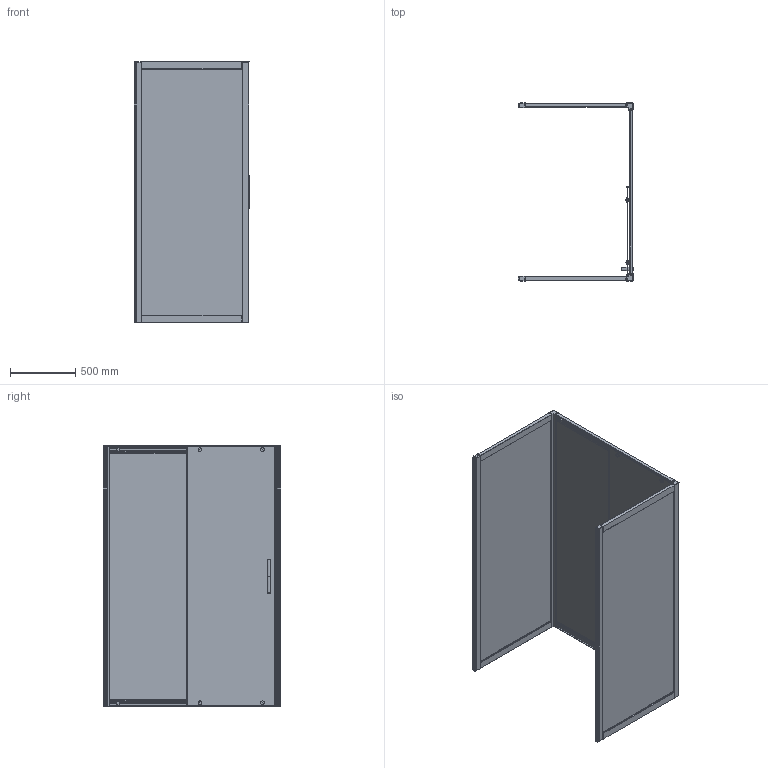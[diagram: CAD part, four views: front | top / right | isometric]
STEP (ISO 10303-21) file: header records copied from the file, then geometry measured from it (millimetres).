
FILE_DESCRIPTION(/* description */ (''),/* implementation_level */ '2;1');
FILE_NAME(/* name */ 'D:\Работа\Сергей\! Готово\Документация и модели всех серий\KUBELE динамические модели и набор документов\19 NEW\KÜBELE DE019R2U\KÜBELE DE019R2U-3D.stp',/* time_stamp */ '2019-06-17T19:34:32+03:00',/* author */ ('User'),/* organization */ (''),/* preprocessor_version */ 'ST-DEVELOPER v15.2',/* originating_system */ 'Autodesk Inventor 2014',/* authorisation */ '');
FILE_SCHEMA (('CONFIG_CONTROL_DESIGN'));
Products named in the file (1): KÜBELE DE019R2U-3D
Bounding box: 889.52 x 1365.2 x 2002.5 mm (x, y, z)
Volume: 55092241.9 mm3; surface area: 14312893.4 mm2
Topology: 1 solids, 15 shells, 2531 faces, 7175 edges, 4594 vertices
Faces by surface type: plane 1309, cylinder 804, bspline 184, torus 126, sphere 60, cone 48
Full cylindrical faces by diameter (mm): 3 x2, 3.7 x36, 8.4 x4, 9.5 x8, 10 x2, 13.2 x4, 14 x8, 16.5 x8, 18 x8, 19 x12, 22 x4, 28.7 x4, 30 x4
Entity records: 94416 total; most frequent: CARTESIAN_POINT 26569, ORIENTED_EDGE 13964, DIRECTION 13303, EDGE_CURVE 6964, VERTEX_POINT 4526, LINE 4455, VECTOR 4455, AXIS2_PLACEMENT_3D 4424
